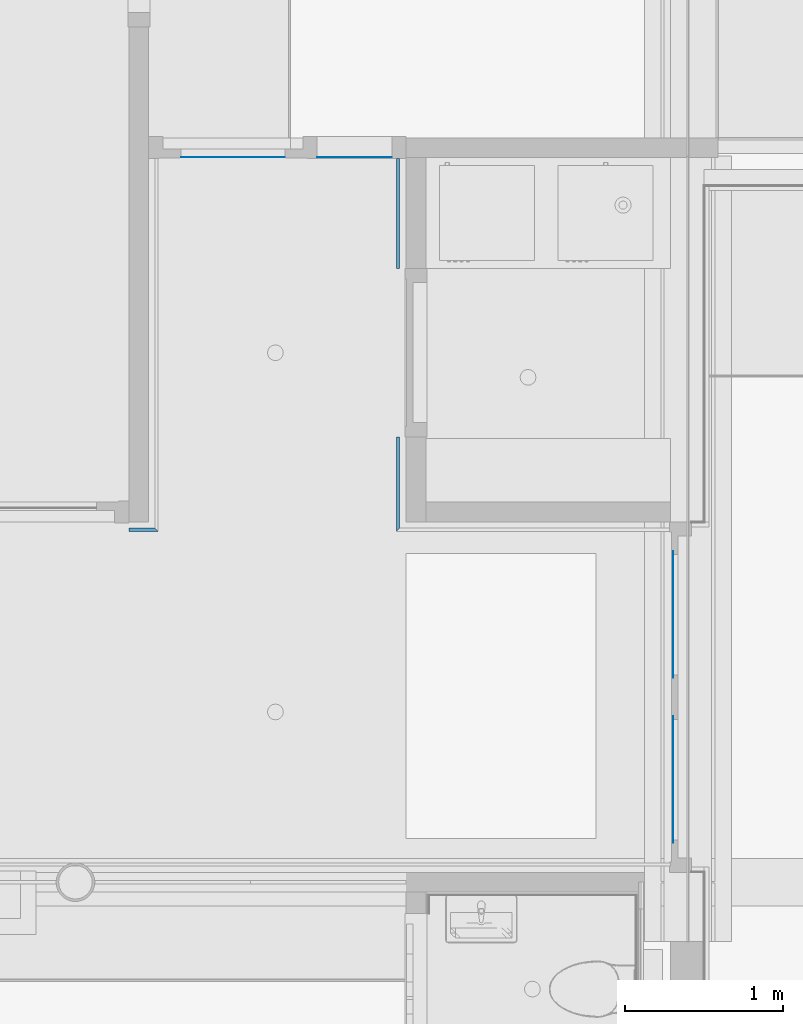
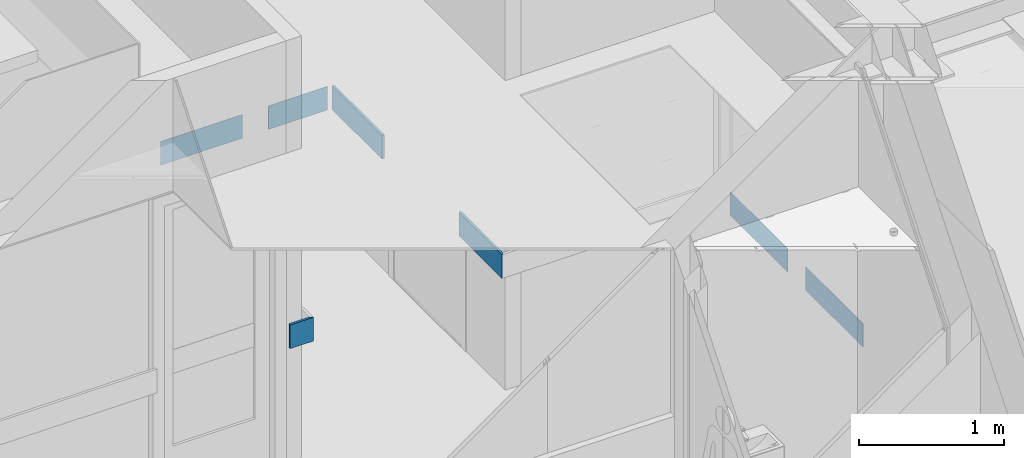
# One storey, part 34 of 347: 7 beams.
"""IFC2X3 building model written with IfcOpenShell, lengths in millimetres."""

from ifc_helpers import new_model, entity, si_unit, converted_unit, derived_unit, money_unit, direction, frame, origin_with_axes, place, context, subcontext, project, spatial, faceted_brep, material, type_object, element, save


model = new_model("IFC2X3")

# Units and contexts
model_context = context("Model", 3, precision=0.01, world=origin_with_axes(), true_north=direction((0.0, 1.0)))
plan_context = context("Plan", 3, precision=0.01, world=origin_with_axes(), true_north=direction((0.0, 1.0)))
body_context = subcontext(model_context, "Body", "Model", "MODEL_VIEW")
ifc_project = project(units=[si_unit("LENGTHUNIT", "METRE", prefix="MILLI"), si_unit("AREAUNIT", "SQUARE_METRE"), si_unit("VOLUMEUNIT", "CUBIC_METRE"), converted_unit("PLANEANGLEUNIT", "DEGREE", entity("IfcPlaneAngleMeasure", 0.0174532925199), si_unit("PLANEANGLEUNIT", "RADIAN"), dimensions=[0, 0, 0, 0, 0, 0, 0]), money_unit("EUR"), converted_unit("TIMEUNIT", "Year", entity("IfcTimeMeasure", 31556926.0), si_unit("TIMEUNIT", "SECOND"), dimensions=[0, 0, 1, 0, 0, 0, 0]), si_unit("MASSUNIT", "GRAM", prefix="KILO"), si_unit("THERMODYNAMICTEMPERATUREUNIT", "DEGREE_CELSIUS"), si_unit("LUMINOUSINTENSITYUNIT", "LUMEN"), si_unit("ENERGYUNIT", "JOULE", prefix="MEGA"), derived_unit("THERMALCONDUCTANCEUNIT", [(si_unit("POWERUNIT", "WATT"), 1), (si_unit("LENGTHUNIT", "METRE"), -1), (si_unit("THERMODYNAMICTEMPERATUREUNIT", "KELVIN"), -1)]), derived_unit("SPECIFICHEATCAPACITYUNIT", [(si_unit("ENERGYUNIT", "JOULE"), 1), (si_unit("MASSUNIT", "GRAM", prefix="KILO"), -1), (si_unit("THERMODYNAMICTEMPERATUREUNIT", "KELVIN"), -1)]), derived_unit("MASSDENSITYUNIT", [(si_unit("MASSUNIT", "GRAM", prefix="KILO"), 1), (si_unit("VOLUMEUNIT", "CUBIC_METRE"), -1)])], contexts=[model_context, plan_context])

# Site, building, storey
site_placement = place(None, origin_with_axes())
site = spatial("IfcSite", under=ifc_project, at=site_placement, Name="Site", CompositionType="ELEMENT")
building_placement = place(site_placement, origin_with_axes())
building = spatial("IfcBuilding", under=site, at=building_placement, Name="Naam gebouw", CompositionType="ELEMENT")
storey_placement = place(building_placement, origin_with_axes())
storey = spatial("IfcBuildingStorey", under=building, at=storey_placement, Name="begane grond", CompositionType="ELEMENT", Elevation=0.0)

# Beams
ifc_material_1 = material(Name="Glas geleiding strook")
beam_type_1 = type_object("IfcBeamType", Name="42 geleiding strook 20 x 200", PredefinedType="BEAM")
beam_1_placement = place(storey_placement, frame((32075.0, 14400.0, 0.0), z_axis=(0.0, 0.0, 1.0), x_axis=(0.0, -1.0, 0.0)))
element("IfcBeam", 1, at=beam_1_placement, inside=storey, type_object=beam_type_1, material=ifc_material_1, Name="28_Balk-x", ObjectType="BEAM", context=body_context, shape_type="Brep", body=[
    faceted_brep([(40.0, 165.0, 1200.0), (40.0, 165.0, 1000.0), (40.0, 0.0, 1000.0), (40.0, 0.0, 1200.0), (60.0, 185.0, 1200.0), (60.0, 185.0, 1000.0), (60.0, 0.0, 1000.0), (60.0, 0.0, 1200.0)], [[[0, 1, 2, 3]], [[0, 4, 5, 1]], [[1, 5, 6, 2]], [[3, 2, 6, 7]], [[4, 0, 3, 7]], [[5, 4, 7, 6]]]),
])
beam_2_placement = place(storey_placement, frame((33825.0, 14936.0, 0.0), z_axis=(0.0, 0.0, 1.0), x_axis=(-1.0, 0.0, 0.0)))
element("IfcBeam", 2, at=beam_2_placement, inside=storey, type_object=beam_type_1, material=ifc_material_1, Name="28_Balk-x", ObjectType="BEAM", context=body_context, shape_type="Brep", body=[
    faceted_brep([(40.0, 576.0, 1200.0), (40.0, 576.0, 1000.0), (40.0, 0.0, 1000.0), (40.0, 0.0, 1200.0), (60.0, 596.0, 1200.0), (60.0, 596.0, 1000.0), (60.0, 0.0, 1000.0), (60.0, 0.0, 1200.0)], [[[0, 1, 2, 3]], [[0, 4, 5, 1]], [[1, 5, 6, 2]], [[3, 2, 6, 7]], [[4, 0, 3, 7]], [[5, 4, 7, 6]]]),
])
beam_3_placement = place(storey_placement, frame((33825.0, 16693.0, 0.0), z_axis=(0.0, 0.0, 1.0), x_axis=(-1.0, 0.0, 0.0)))
element("IfcBeam", 3, at=beam_3_placement, inside=storey, type_object=beam_type_1, material=ifc_material_1, Name="28_Balk-x", ObjectType="BEAM", context=body_context, shape_type="Brep", body=[
    faceted_brep([(40.0, 693.0, 1200.0), (40.0, 693.0, 1000.0), (40.0, 0.0, 1000.0), (40.0, 0.0, 1200.0), (60.0, 693.0, 1200.0), (60.0, 693.0, 1000.0), (60.0, 0.0, 1000.0), (60.0, 0.0, 1200.0)], [[[0, 1, 2, 3]], [[0, 4, 5, 1]], [[1, 5, 6, 2]], [[3, 2, 6, 7]], [[4, 0, 3, 7]], [[5, 4, 7, 6]]]),
])
ifc_material_2 = material(Name="Glas geleiding strook matt")
beam_type_2 = type_object("IfcBeamType", Name="42 geleiding strook (mat) 2 x 200", PredefinedType="BEAM")
beam_4_placement = place(storey_placement, frame((32405.0, 16703.0, 0.0), z_axis=(0.0, 0.0, 1.0), x_axis=(0.0, -1.0, 0.0)))
element("IfcBeam", 4, at=beam_4_placement, inside=storey, type_object=beam_type_2, material=ifc_material_2, Name="28_Balk-x", ObjectType="BEAM", context=body_context, shape_type="Brep", body=[
    faceted_brep([(0.0, 654.0, 1200.0), (0.0, 654.0, 1000.0), (0.0, 0.0, 1000.0), (0.0, 0.0, 1200.0), (2.0, 654.0, 1200.0), (2.0, 654.0, 1000.0), (2.0, 0.0, 1000.0), (2.0, 0.0, 1200.0)], [[[0, 1, 2, 3]], [[0, 4, 5, 1]], [[1, 5, 6, 2]], [[3, 2, 6, 7]], [[4, 0, 3, 7]], [[5, 4, 7, 6]]]),
])
beam_5_placement = place(storey_placement, frame((33264.0, 16703.0, 0.0), z_axis=(0.0, 0.0, 1.0), x_axis=(0.0, -1.0, 0.0)))
element("IfcBeam", 5, at=beam_5_placement, inside=storey, type_object=beam_type_2, material=ifc_material_2, Name="28_Balk-x", ObjectType="BEAM", context=body_context, shape_type="Brep", body=[
    faceted_brep([(0.0, 471.000000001, 1200.0), (0.0, 471.000000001, 1000.0), (0.0, 0.0, 1000.0), (0.0, 0.0, 1200.0), (2.0, 471.000000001, 1200.0), (2.0, 471.000000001, 1000.0), (2.0, 0.0, 1000.0), (2.0, 0.0, 1200.0)], [[[0, 1, 2, 3]], [[0, 4, 5, 1]], [[1, 5, 6, 2]], [[3, 2, 6, 7]], [[4, 0, 3, 7]], [[5, 4, 7, 6]]]),
])
beam_6_placement = place(storey_placement, frame((35513.0, 14214.0, 0.0), z_axis=(0.0, 0.0, 1.0), x_axis=(-1.0, 0.0, 0.0)))
element("IfcBeam", 6, at=beam_6_placement, inside=storey, type_object=beam_type_2, material=ifc_material_2, Name="28_Balk-x", ObjectType="BEAM", context=body_context, shape_type="Brep", body=[
    faceted_brep([(0.0, 799.25, 1200.0), (0.0, 799.25, 1000.0), (0.0, 0.0, 1000.0), (0.0, 0.0, 1200.0), (2.0, 799.25, 1200.0), (2.0, 799.25, 1000.0), (2.0, 0.0, 1000.0), (2.0, 0.0, 1200.0)], [[[0, 1, 2, 3]], [[0, 4, 5, 1]], [[1, 5, 6, 2]], [[3, 2, 6, 7]], [[4, 0, 3, 7]], [[5, 4, 7, 6]]]),
])
beam_7_placement = place(storey_placement, frame((35513.0, 12373.5, 0.0), z_axis=(0.0, 0.0, 1.0), x_axis=(1.0, 0.0, 0.0)))
element("IfcBeam", 7, at=beam_7_placement, inside=storey, type_object=beam_type_2, material=ifc_material_2, Name="28_Balk-x", ObjectType="BEAM", context=body_context, shape_type="Brep", body=[
    faceted_brep([(-2.0, 799.25, 1200.0), (-2.0, 799.25, 1000.0), (-2.0, 0.0, 1000.0), (-2.0, 0.0, 1200.0), (0.0, 799.25, 1200.0), (0.0, 799.25, 1000.0), (0.0, 0.0, 1000.0), (0.0, 0.0, 1200.0)], [[[0, 1, 2, 3]], [[0, 4, 5, 1]], [[1, 5, 6, 2]], [[3, 2, 6, 7]], [[4, 0, 3, 7]], [[5, 4, 7, 6]]]),
])

save(model, "model.ifc")
